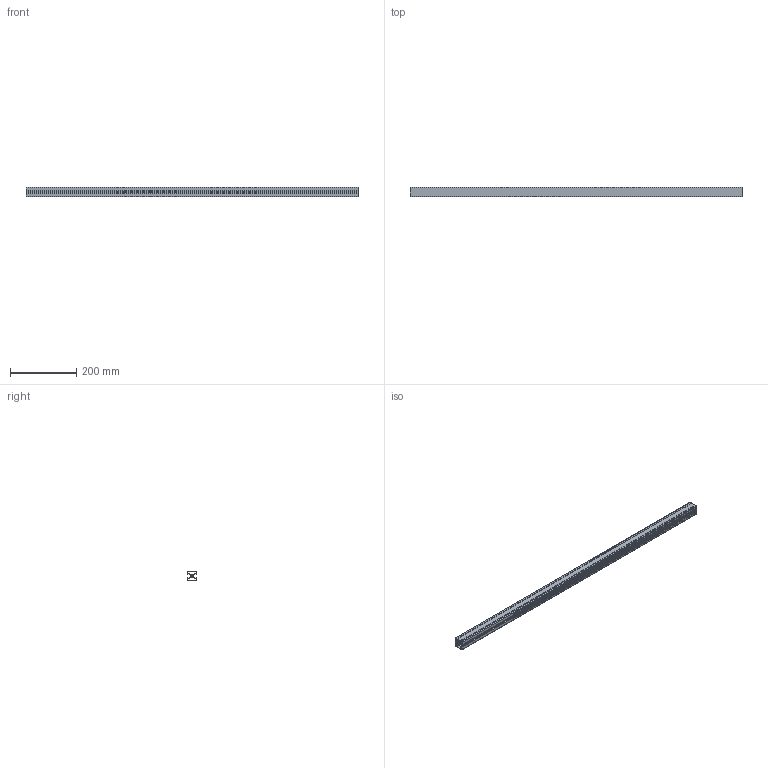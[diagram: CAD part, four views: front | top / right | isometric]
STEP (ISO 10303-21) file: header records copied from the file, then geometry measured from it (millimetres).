
FILE_DESCRIPTION (( 'STEP AP203' ), '1' );
FILE_NAME ('F33P.step', '2017-04-26T04:11:08', ( 'sr-d11' ), ( 'MouseComputer PC' ), 'SwSTEP 2.0', 'SolidWorks 2014', '' );
FILE_SCHEMA (( 'CONFIG_CONTROL_DESIGN' ));
Length unit declared in the file: millimetre
Products named in the file (1): F33P
Bounding box: 1000 x 30 x 30 mm (x, y, z)
Volume: 311464.8 mm3; surface area: 319397.2 mm2
Topology: 1 solids, 1 shells, 114 faces, 336 edges, 224 vertices
Faces by surface type: cylinder 68, plane 46
Entity records: 3945 total; most frequent: DIRECTION 702, CARTESIAN_POINT 675, ORIENTED_EDGE 672, EDGE_CURVE 336, AXIS2_PLACEMENT_3D 251, VERTEX_POINT 224, VECTOR 200, LINE 200
